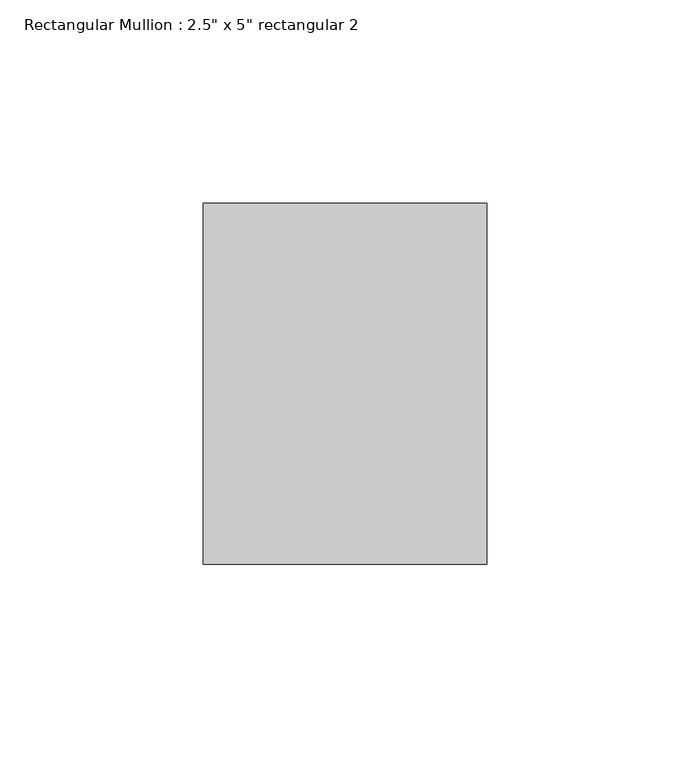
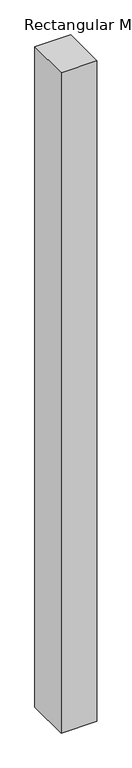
"""IFC4 building model written with IfcOpenShell, lengths in millimetres: member geometry."""

from ifc_helpers import new_model, si_unit, frame, origin, place, context, project, spatial, polyline, outline, extrude, source, transform, mapped, element, save


def member_5f6233c0(model_context):
    return source(origin(), model_context, "Body", "SweptSolid", [
        extrude(outline(polyline([(38.1, 44.45), (38.1, -44.45), (-31.75, -44.45), (-31.75, 44.45), (38.1, 44.45)])), frame((0.0, 0.0, -1366.0800169), z_axis=(0.0, 0.0, 1.0), x_axis=(1.0, 0.0, 0.0)), (0.0, 0.0, 1.0), 1366.0800169),
    ])


if __name__ == "__main__":
    model = new_model("IFC4")
    model_context = context("Model", 3, world=origin())
    ifc_project = project(units=[si_unit("LENGTHUNIT", "METRE", prefix="MILLI")], contexts=[model_context])
    site = spatial("IfcSite", under=ifc_project)
    building = spatial("IfcBuilding", under=site)
    placement = place(None, origin())
    member_shape = member_5f6233c0(model_context)
    element("IfcMember", 1, ObjectType="Rectangular Mullion : 2.5\" x 5\" rectangular 2", at=placement, inside=building, context=model_context, shape_type="MappedRepresentation", body=[
        mapped(member_shape, transform((0.0, 0.0, 0.0), x_axis=(1.0, 0.0, 0.0), y_axis=(0.0, 1.0, 0.0), z_axis=(0.0, 0.0, 1.0))),
    ])
    save(model, "model.ifc")
